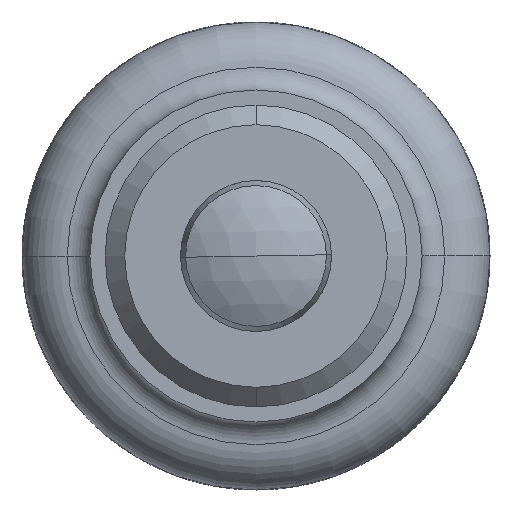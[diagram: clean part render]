
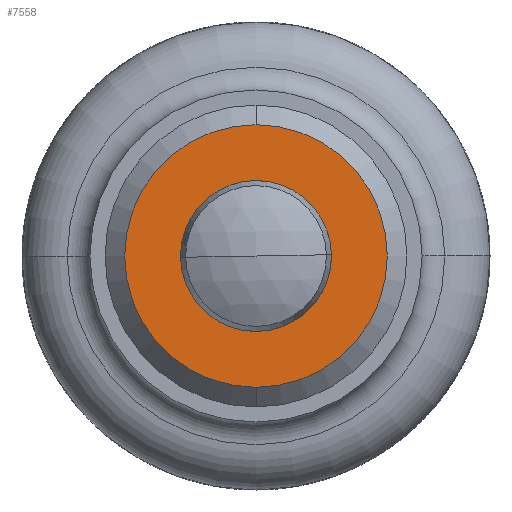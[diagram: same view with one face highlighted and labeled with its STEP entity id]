
A CAD part, front view. The second image highlights one B-rep face of the part: STEP entity #7558.
In plain terms, the highlighted planar face has unit normal (0, -1, 0).
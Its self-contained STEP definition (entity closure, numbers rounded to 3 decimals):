
#729 = VERTEX_POINT ( 'NONE', #11113 ) ;
#769 = EDGE_CURVE ( 'NONE', #770, #729, #11177, .T. ) ;
#770 = VERTEX_POINT ( 'NONE', #11172 ) ;
#816 = VERTEX_POINT ( 'NONE', #11240 ) ;
#818 = VERTEX_POINT ( 'NONE', #11235 ) ;
#2123 = FACE_BOUND ( 'NONE', #7535, .T. ) ;
#2129 = FACE_OUTER_BOUND ( 'NONE', #7478, .T. ) ;
#2146 = DIRECTION ( 'NONE',  ( 0., 0., 1. ) ) ;
#2147 = DIRECTION ( 'NONE',  ( 0., -1., 0. ) ) ;
#2148 = CARTESIAN_POINT ( 'NONE',  ( 0., -41., 0. ) ) ;
#2149 = AXIS2_PLACEMENT_3D ( 'NONE', #2148, #2147, #2146 ) ;
#2150 = CIRCLE ( 'NONE', #2149, 8.7 ) ;
#2180 = DIRECTION ( 'NONE',  ( 0., 0., 1. ) ) ;
#2181 = DIRECTION ( 'NONE',  ( 0., 1., 0. ) ) ;
#2182 = CARTESIAN_POINT ( 'NONE',  ( 0., -41., 0. ) ) ;
#2183 = AXIS2_PLACEMENT_3D ( 'NONE', #2182, #2181, #2180 ) ;
#2185 = PLANE ( 'NONE',  #2183 ) ;
#2305 = DIRECTION ( 'NONE',  ( 0., 0., 1. ) ) ;
#2306 = DIRECTION ( 'NONE',  ( 0., 1., 0. ) ) ;
#2307 = CARTESIAN_POINT ( 'NONE',  ( 0., -41., 0. ) ) ;
#2308 = AXIS2_PLACEMENT_3D ( 'NONE', #2307, #2306, #2305 ) ;
#2309 = CIRCLE ( 'NONE', #2308, 5. ) ;
#2521 = DIRECTION ( 'NONE',  ( 0., 0., 1. ) ) ;
#2522 = DIRECTION ( 'NONE',  ( 0., 1., 0. ) ) ;
#2523 = CARTESIAN_POINT ( 'NONE',  ( 0., -41., 0. ) ) ;
#2524 = AXIS2_PLACEMENT_3D ( 'NONE', #2523, #2522, #2521 ) ;
#2525 = CIRCLE ( 'NONE', #2524, 5. ) ;
#7478 = EDGE_LOOP ( 'NONE', ( #7550, #7540 ) ) ;
#7529 = ORIENTED_EDGE ( 'NONE', *, *, #7629, .T. ) ;
#7530 = ORIENTED_EDGE ( 'NONE', *, *, #7763, .T. ) ;
#7535 = EDGE_LOOP ( 'NONE', ( #7530, #7529 ) ) ;
#7540 = ORIENTED_EDGE ( 'NONE', *, *, #769, .T. ) ;
#7545 = EDGE_CURVE ( 'NONE', #729, #770, #2150, .T. ) ;
#7550 = ORIENTED_EDGE ( 'NONE', *, *, #7545, .T. ) ;
#7558 = ADVANCED_FACE ( 'NONE', ( #2129, #2123 ), #2185, .F. ) ;
#7629 = EDGE_CURVE ( 'NONE', #818, #816, #2309, .T. ) ;
#7763 = EDGE_CURVE ( 'NONE', #816, #818, #2525, .T. ) ;
#11113 = CARTESIAN_POINT ( 'NONE',  ( 0., -41., 8.7 ) ) ;
#11172 = CARTESIAN_POINT ( 'NONE',  ( 0., -41., -8.7 ) ) ;
#11173 = DIRECTION ( 'NONE',  ( 0., 0., 1. ) ) ;
#11174 = DIRECTION ( 'NONE',  ( 0., -1., 0. ) ) ;
#11175 = CARTESIAN_POINT ( 'NONE',  ( 0., -41., 0. ) ) ;
#11176 = AXIS2_PLACEMENT_3D ( 'NONE', #11175, #11174, #11173 ) ;
#11177 = CIRCLE ( 'NONE', #11176, 8.7 ) ;
#11235 = CARTESIAN_POINT ( 'NONE',  ( 0., -41., -5. ) ) ;
#11240 = CARTESIAN_POINT ( 'NONE',  ( 0., -41., 5. ) ) ;
